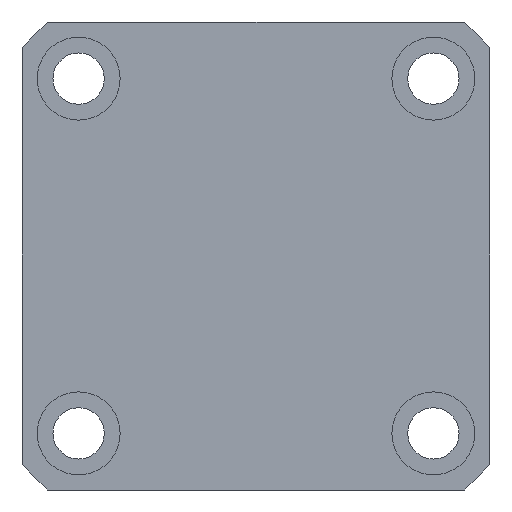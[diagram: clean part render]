
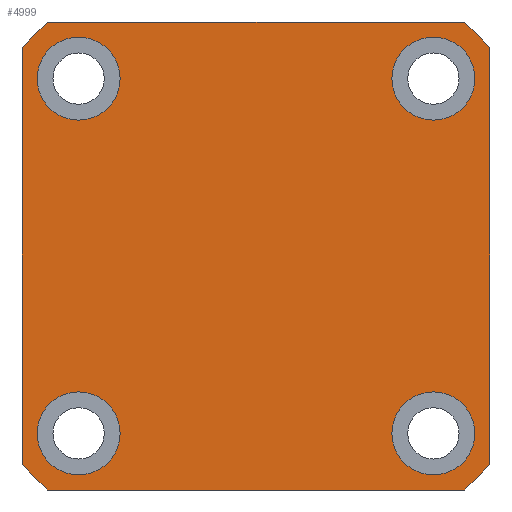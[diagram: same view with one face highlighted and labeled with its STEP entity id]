
A CAD part, left-side view. The second image highlights one B-rep face of the part: STEP entity #4999.
In plain terms, the highlighted planar face has unit normal (-1, 0, 0).
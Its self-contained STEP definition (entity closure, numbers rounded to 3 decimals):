
#2542=PLANE('',#11622);
#3293=LINE('',#15968,#4052);
#3302=LINE('',#17534,#4061);
#3304=LINE('',#17540,#4063);
#3305=LINE('',#17544,#4064);
#4052=VECTOR('',#12055,1.);
#4061=VECTOR('',#12222,1.);
#4063=VECTOR('',#12228,1.);
#4064=VECTOR('',#12231,1.);
#4999=ADVANCED_FACE('',(#5996,#5997,#5998,#5999,#6000),#2542,.F.);
#5996=FACE_BOUND('',#6199,.T.);
#5997=FACE_BOUND('',#6200,.T.);
#5998=FACE_BOUND('',#6201,.T.);
#5999=FACE_BOUND('',#6202,.T.);
#6000=FACE_BOUND('',#6203,.T.);
#6199=EDGE_LOOP('',(#6967,#6968,#6969,#6970,#6971,#6972,#6973,#6974));
#6200=EDGE_LOOP('',(#6975));
#6201=EDGE_LOOP('',(#6976));
#6202=EDGE_LOOP('',(#6977));
#6203=EDGE_LOOP('',(#6978));
#6967=ORIENTED_EDGE('',*,*,#10309,.F.);
#6968=ORIENTED_EDGE('',*,*,#10310,.F.);
#6969=ORIENTED_EDGE('',*,*,#10311,.F.);
#6970=ORIENTED_EDGE('',*,*,#10312,.F.);
#6971=ORIENTED_EDGE('',*,*,#10313,.F.);
#6972=ORIENTED_EDGE('',*,*,#10202,.F.);
#6973=ORIENTED_EDGE('',*,*,#10314,.F.);
#6974=ORIENTED_EDGE('',*,*,#10307,.F.);
#6975=ORIENTED_EDGE('',*,*,#10204,.F.);
#6976=ORIENTED_EDGE('',*,*,#10206,.F.);
#6977=ORIENTED_EDGE('',*,*,#10208,.F.);
#6978=ORIENTED_EDGE('',*,*,#10210,.F.);
#9306=VERTEX_POINT('',#15967);
#9307=VERTEX_POINT('',#15969);
#9308=VERTEX_POINT('',#15973);
#9310=VERTEX_POINT('',#15978);
#9312=VERTEX_POINT('',#15983);
#9314=VERTEX_POINT('',#15988);
#9401=VERTEX_POINT('',#17533);
#9402=VERTEX_POINT('',#17535);
#9403=VERTEX_POINT('',#17539);
#9404=VERTEX_POINT('',#17541);
#9405=VERTEX_POINT('',#17543);
#9406=VERTEX_POINT('',#17545);
#10202=EDGE_CURVE('',#9306,#9307,#3293,.T.);
#10204=EDGE_CURVE('',#9308,#9308,#11406,.T.);
#10206=EDGE_CURVE('',#9310,#9310,#11408,.T.);
#10208=EDGE_CURVE('',#9312,#9312,#11410,.T.);
#10210=EDGE_CURVE('',#9314,#9314,#11412,.T.);
#10307=EDGE_CURVE('',#9401,#9402,#3302,.T.);
#10309=EDGE_CURVE('',#9403,#9401,#11453,.T.);
#10310=EDGE_CURVE('',#9404,#9403,#3304,.T.);
#10311=EDGE_CURVE('',#9405,#9404,#11454,.T.);
#10312=EDGE_CURVE('',#9406,#9405,#3305,.T.);
#10313=EDGE_CURVE('',#9307,#9406,#11455,.T.);
#10314=EDGE_CURVE('',#9402,#9306,#11456,.T.);
#11406=CIRCLE('',#11539,5.5);
#11408=CIRCLE('',#11542,5.5);
#11410=CIRCLE('',#11545,5.5);
#11412=CIRCLE('',#11548,5.5);
#11453=CIRCLE('',#11618,41.5);
#11454=CIRCLE('',#11619,41.5);
#11455=CIRCLE('',#11620,41.5);
#11456=CIRCLE('',#11621,41.5);
#11539=AXIS2_PLACEMENT_3D('',#15972,#12059,#12060);
#11542=AXIS2_PLACEMENT_3D('',#15977,#12065,#12066);
#11545=AXIS2_PLACEMENT_3D('',#15982,#12071,#12072);
#11548=AXIS2_PLACEMENT_3D('',#15987,#12077,#12078);
#11618=AXIS2_PLACEMENT_3D('',#17538,#12226,#12227);
#11619=AXIS2_PLACEMENT_3D('',#17542,#12229,#12230);
#11620=AXIS2_PLACEMENT_3D('',#17546,#12232,#12233);
#11621=AXIS2_PLACEMENT_3D('',#17547,#12234,#12235);
#11622=AXIS2_PLACEMENT_3D('',#17548,#12236,#12237);
#12055=DIRECTION('',(0.,1.,0.));
#12059=DIRECTION('',(-1.,0.,0.));
#12060=DIRECTION('',(0.,0.,1.));
#12065=DIRECTION('',(-1.,0.,0.));
#12066=DIRECTION('',(0.,0.,1.));
#12071=DIRECTION('',(-1.,0.,0.));
#12072=DIRECTION('',(0.,0.,1.));
#12077=DIRECTION('',(-1.,0.,0.));
#12078=DIRECTION('',(0.,0.,1.));
#12222=DIRECTION('',(0.,0.,-1.));
#12226=DIRECTION('',(1.,0.,0.));
#12227=DIRECTION('',(0.,0.,-1.));
#12228=DIRECTION('',(0.,-1.,0.));
#12229=DIRECTION('',(1.,0.,0.));
#12230=DIRECTION('',(0.,0.,-1.));
#12231=DIRECTION('',(0.,0.,1.));
#12232=DIRECTION('',(1.,0.,0.));
#12233=DIRECTION('',(0.,0.,-1.));
#12234=DIRECTION('',(1.,0.,0.));
#12235=DIRECTION('',(0.,0.,-1.));
#12236=DIRECTION('',(1.,0.,0.));
#12237=DIRECTION('',(0.,0.,1.));
#15967=CARTESIAN_POINT('',(0.,3.409,-62.451));
#15968=CARTESIAN_POINT('',(0.,31.,-62.451));
#15969=CARTESIAN_POINT('',(0.,58.591,-62.451));
#15972=CARTESIAN_POINT('',(0.,7.5,-54.951));
#15973=CARTESIAN_POINT('',(0.,7.5,-49.451));
#15977=CARTESIAN_POINT('',(0.,7.5,-7.951));
#15978=CARTESIAN_POINT('',(0.,7.5,-2.451));
#15982=CARTESIAN_POINT('',(0.,54.5,-7.951));
#15983=CARTESIAN_POINT('',(0.,54.5,-2.451));
#15987=CARTESIAN_POINT('',(0.,54.5,-54.951));
#15988=CARTESIAN_POINT('',(0.,54.5,-49.451));
#17533=CARTESIAN_POINT('',(0.,0.,-3.86));
#17534=CARTESIAN_POINT('',(0.,0.,-6.451));
#17535=CARTESIAN_POINT('',(0.,0.,-59.042));
#17538=CARTESIAN_POINT('',(0.,31.,-31.451));
#17539=CARTESIAN_POINT('',(0.,3.409,-0.451));
#17540=CARTESIAN_POINT('',(0.,31.,-0.451));
#17541=CARTESIAN_POINT('',(0.,58.591,-0.451));
#17542=CARTESIAN_POINT('',(0.,31.,-31.451));
#17543=CARTESIAN_POINT('',(0.,62.,-3.86));
#17544=CARTESIAN_POINT('',(0.,62.,-31.451));
#17545=CARTESIAN_POINT('',(0.,62.,-59.042));
#17546=CARTESIAN_POINT('',(0.,31.,-31.451));
#17547=CARTESIAN_POINT('',(0.,31.,-31.451));
#17548=CARTESIAN_POINT('',(0.,31.,-31.451));
